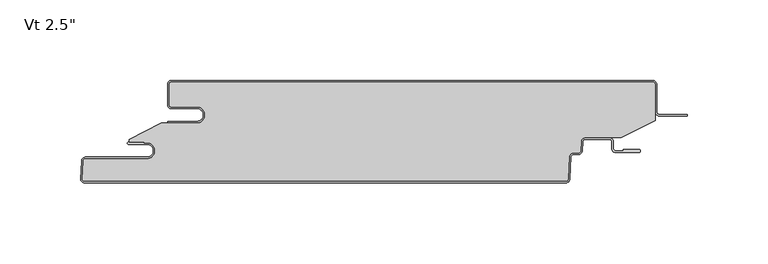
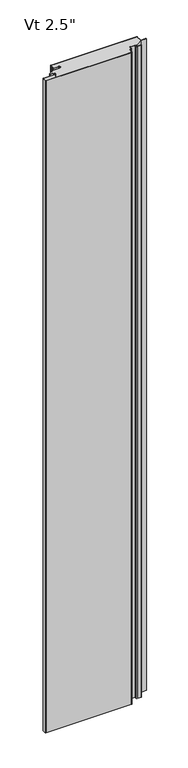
"""IFC4 building model written with IfcOpenShell, lengths in millimetres: plate geometry."""

from ifc_helpers import new_model, si_unit, point, frame, frame_2d, origin, origin_with_axes, place, context, project, spatial, polyline, circle_curve, ellipse_curve, trimmed, segment, composite_curve, outline, extrude, source, transform, mapped, element, save
from ifc_brep_helpers import plane_surface, cylinder_surface, revolved_surface, extruded_surface, advanced_brep


def plate_267bbc77(model_context):
    return source(origin(), model_context, "Body", "SolidModel", [
        extrude(outline(composite_curve([segment(polyline([(-133.35625, -16.4625), (-149.23125, -16.4625)]), True, "CONTINUOUS"), segment(trimmed(circle_curve(frame_2d((-149.23125, -15.08125)), 1.38125), [point((-149.23125, -16.4625))], [point((-150.6125, -15.08125))], False, "CARTESIAN"), True, "CONTINUOUS"), segment(polyline([(-150.6125, -15.08125), (-150.6125, -2.38125)]), True, "CONTINUOUS"), segment(trimmed(circle_curve(frame_2d((-149.23125, -2.38125)), 1.38125), [point((-150.6125, -2.38125))], [point((-149.23125, -1.0))], False, "CARTESIAN"), True, "CONTINUOUS"), segment(polyline([(-149.23125, -1.0), (149.21875, -1.0)]), True, "CONTINUOUS"), segment(trimmed(circle_curve(frame_2d((149.21875, -2.38125)), 1.38125), [point((149.21875, -1.0))], [point((150.6, -2.38125))], False, "CARTESIAN"), True, "CONTINUOUS"), segment(polyline([(150.6, -2.38125), (150.6, -24.9057308), (129.7830434, -35.5125), (107.3415783, -35.5125)]), True, "CONTINUOUS"), segment(trimmed(circle_curve(frame_2d((107.3415783, -38.1)), 2.5875), [point((107.3415783, -35.5125))], [point((104.7576244, -37.9645807))], True, "CARTESIAN"), True, "CONTINUOUS"), segment(polyline([(104.7576244, -37.9645807), (104.4555481, -43.728539)]), True, "CONTINUOUS"), segment(trimmed(circle_curve(frame_2d((103.0761911, -43.65625)), 1.38125), [point((104.4555481, -43.728539))], [point((103.0761911, -45.0375))], False, "CARTESIAN"), True, "CONTINUOUS"), segment(polyline([(103.0761911, -45.0375), (100.0323847, -45.0375)]), True, "CONTINUOUS"), segment(trimmed(circle_curve(frame_2d((100.0323847, -47.625)), 2.5875), [point((100.0323847, -45.0375))], [point((97.4484307, -47.4895807))], True, "CARTESIAN"), True, "CONTINUOUS"), segment(polyline([(97.4484307, -47.4895807), (96.7303677, -61.191039)]), True, "CONTINUOUS"), segment(trimmed(circle_curve(frame_2d((95.3510107, -61.11875)), 1.38125), [point((96.7303677, -61.191039))], [point((95.3510107, -62.5))], False, "CARTESIAN"), True, "CONTINUOUS"), segment(polyline([(95.3510107, -62.5), (-203.0924535, -62.5)]), True, "CONTINUOUS"), segment(trimmed(circle_curve(frame_2d((-203.0924535, -61.11875)), 1.38125), [point((-203.0924535, -62.5))], [point((-204.4718106, -61.046461))], False, "CARTESIAN"), True, "CONTINUOUS"), segment(polyline([(-204.4718106, -61.046461), (-203.8894291, -49.933961)]), True, "CONTINUOUS"), segment(trimmed(circle_curve(frame_2d((-202.5100721, -50.00625)), 1.38125), [point((-203.8894291, -49.933961))], [point((-202.5100721, -48.625))], False, "CARTESIAN"), True, "CONTINUOUS"), segment(polyline([(-202.5100721, -48.625), (-164.3267674, -48.625)]), True, "CONTINUOUS"), segment(trimmed(circle_curve(frame_2d((-164.3267674, -43.65625)), 4.96875), [point((-164.3267674, -48.625))], [point((-164.3267674, -38.6875))], True, "CARTESIAN"), True, "CONTINUOUS"), segment(polyline([(-164.3267674, -38.6875), (-165.9142674, -38.89375), (-165.9142674, -38.1), (-175.425, -38.1), (-175.425, -36.5326309), (-155.5385922, -26.4), (-133.35625, -26.4)]), True, "CONTINUOUS"), segment(trimmed(circle_curve(frame_2d((-133.35625, -21.43125)), 4.96875), [point((-133.35625, -26.4))], [point((-133.35625, -16.4625))], True, "CARTESIAN"), True, "CONTINUOUS")], self_intersect=False)), origin_with_axes(), (0.0, 0.0, 1.0), 2400.0),
        extrude(outline(composite_curve([segment(polyline([(-151.6125, -25.4), (-133.35625, -25.4)]), True, "CONTINUOUS"), segment(trimmed(circle_curve(frame_2d((-133.35625, -21.43125)), 3.96875), [point((-133.35625, -25.4))], [point((-133.35625, -17.4625))], True, "CARTESIAN"), True, "CONTINUOUS"), segment(polyline([(-133.35625, -17.4625), (-149.23125, -17.4625)]), True, "CONTINUOUS"), segment(trimmed(circle_curve(frame_2d((-149.23125, -15.08125)), 2.38125), [point((-149.23125, -17.4625))], [point((-151.6125, -15.08125))], False, "CARTESIAN"), True, "CONTINUOUS"), segment(polyline([(-151.6125, -15.08125), (-151.6125, -2.38125)]), True, "CONTINUOUS"), segment(trimmed(circle_curve(frame_2d((-149.23125, -2.38125)), 2.38125), [point((-151.6125, -2.38125))], [point((-149.23125, 0.0))], False, "CARTESIAN"), True, "CONTINUOUS"), segment(polyline([(-149.23125, 0.0), (149.21875, 0.0)]), True, "CONTINUOUS"), segment(trimmed(circle_curve(frame_2d((149.21875, -2.38125)), 2.38125), [point((149.21875, 0.0))], [point((151.6, -2.38125))], False, "CARTESIAN"), True, "CONTINUOUS"), segment(polyline([(151.6, -2.38125), (151.6, -19.446875)]), True, "CONTINUOUS"), segment(trimmed(circle_curve(frame_2d((153.1875, -19.446875)), 1.5875), [point((151.6, -19.446875))], [point((153.1875, -21.034375))], True, "CARTESIAN"), True, "CONTINUOUS"), segment(polyline([(153.1875, -21.034375), (170.65, -21.034375), (170.65, -22.034375), (153.1875, -22.034375)]), True, "CONTINUOUS"), segment(trimmed(circle_curve(frame_2d((153.1875, -19.446875)), 2.5875), [point((153.1875, -22.034375))], [point((150.6, -19.446875))], False, "CARTESIAN"), True, "CONTINUOUS"), segment(polyline([(150.6, -19.446875), (150.6, -2.38125)]), True, "CONTINUOUS"), segment(trimmed(circle_curve(frame_2d((149.21875, -2.38125)), 1.38125), [point((150.6, -2.38125))], [point((149.21875, -1.0))], True, "CARTESIAN"), True, "CONTINUOUS"), segment(polyline([(149.21875, -1.0), (-149.23125, -1.0)]), True, "CONTINUOUS"), segment(trimmed(circle_curve(frame_2d((-149.23125, -2.38125)), 1.38125), [point((-149.23125, -1.0))], [point((-150.6125, -2.38125))], True, "CARTESIAN"), True, "CONTINUOUS"), segment(polyline([(-150.6125, -2.38125), (-150.6125, -15.08125)]), True, "CONTINUOUS"), segment(trimmed(circle_curve(frame_2d((-149.23125, -15.08125)), 1.38125), [point((-150.6125, -15.08125))], [point((-149.23125, -16.4625))], True, "CARTESIAN"), True, "CONTINUOUS"), segment(polyline([(-149.23125, -16.4625), (-133.35625, -16.4625)]), True, "CONTINUOUS"), segment(trimmed(circle_curve(frame_2d((-133.35625, -21.43125)), 4.96875), [point((-133.35625, -16.4625))], [point((-133.35625, -26.4))], False, "CARTESIAN"), True, "CONTINUOUS"), segment(polyline([(-133.35625, -26.4), (-151.6125, -26.4), (-151.6125, -25.4)]), True, "CONTINUOUS")], self_intersect=False)), origin_with_axes(), (0.0, 0.0, 1.0), 2400.0),
        advanced_brep(
        [(-175.6377049, -38.1, 2400.0), (-175.6377049, -39.6875, 2400.0), (-164.3267674, -39.6875, 2400.0), (-164.3267674, -47.625, 2400.0), (-202.5100721, -47.625, 2400.0), (-204.8880586, -49.881625, 2400.0), (-205.4704401, -60.994125, 2400.0), (-203.0924535, -63.5, 2400.0), (95.3510107, -63.5, 2400.0), (97.7289973, -61.243375, 2400.0), (98.4470603, -47.5419167, 2400.0), (100.0323847, -46.0375, 2400.0), (103.0761911, -46.0375, 2400.0), (105.4541776, -43.780875, 2400.0), (105.7562539, -38.0169167, 2400.0), (107.3415783, -36.5125, 2400.0), (122.2169826, -36.5125, 2400.0), (123.8044826, -38.1, 2400.0), (123.8044826, -42.2671875, 2400.0), (126.1857326, -44.6484375, 2400.0), (140.6773532, -44.6484375, 2400.0), (140.6773532, -42.8546875, 2400.0), (130.9482326, -42.8546875, 2400.0), (130.9482326, -43.6484375, 2400.0), (126.1857326, -43.6484375, 2400.0), (124.8044826, -42.2671875, 2400.0), (124.8044826, -38.1, 2400.0), (122.2169826, -35.5125, 2400.0), (107.3415783, -35.5125, 2400.0), (104.7576244, -37.9645807, 2400.0), (104.4555481, -43.728539, 2400.0), (103.0761911, -45.0375, 2400.0), (100.0323847, -45.0375, 2400.0), (97.4484307, -47.4895807, 2400.0), (96.7303677, -61.191039, 2400.0), (95.3510107, -62.5, 2400.0), (-203.0924535, -62.5, 2400.0), (-204.4718106, -61.046461, 2400.0), (-203.8894291, -49.933961, 2400.0), (-202.5100721, -48.625, 2400.0), (-164.3267674, -48.625, 2400.0), (-164.3267674, -38.6875, 2400.0), (-165.9142674, -38.89375, 2400.0), (-165.9142674, -38.1, 2400.0), (-175.6377049, -38.1, 0.0), (-165.9142674, -38.1, 0.0), (-165.9142674, -38.89375, 0.0), (-164.3267674, -38.6875, 0.0), (-164.3267674, -48.625, 0.0), (-202.5100721, -48.625, 0.0), (-203.8894291, -49.933961, 0.0), (-204.4718106, -61.046461, 0.0), (-203.0924535, -62.5, 0.0), (95.3510107, -62.5, 0.0), (96.7303677, -61.191039, 0.0), (97.4484307, -47.4895807, 0.0), (100.0323847, -45.0375, 0.0), (103.0761911, -45.0375, 0.0), (104.4555481, -43.728539, 0.0), (104.7576244, -37.9645807, 0.0), (107.3415783, -35.5125, 0.0), (122.2169826, -35.5125, 0.0), (124.8044826, -38.1, 0.0), (124.8044826, -42.2671875, 0.0), (126.1857326, -43.6484375, 0.0), (130.9482326, -43.6484375, 0.0), (130.9482326, -42.8546875, 0.0), (140.6773532, -42.8546875, 0.0), (140.6773532, -44.6484375, 0.0), (126.1857326, -44.6484375, 0.0), (123.8044826, -42.2671875, 0.0), (123.8044826, -38.1, 0.0), (122.2169826, -36.5125, 0.0), (107.3415783, -36.5125, 0.0), (105.7562539, -38.0169167, 0.0), (105.4541776, -43.780875, 0.0), (103.0761911, -46.0375, 0.0), (100.0323847, -46.0375, 0.0), (98.4470603, -47.5419167, 0.0), (97.7289973, -61.243375, 0.0), (95.3510107, -63.5, 0.0), (-203.0924535, -63.5, 0.0), (-205.4704401, -60.994125, 0.0), (-204.8880586, -49.881625, 0.0), (-202.5100721, -47.625, 0.0), (-164.3267674, -47.625, 0.0), (-164.3267674, -39.6875, 0.0), (-175.6377049, -39.6875, 0.0)],
        [
            (0, 1, circle_curve(frame((-175.6377049, -38.89375, 2400.0), z_axis=(0.0, 0.0, 1.0), x_axis=(-1.0, 0.0, 0.0)), 0.79375)),
            (1, 2),
            (2, 3, circle_curve(frame((-164.3267674, -43.65625, 2400.0), z_axis=(0.0, 0.0, -1.0), x_axis=(-1.0, 0.0, 0.0)), 3.96875)),
            (3, 4),
            (4, 5, circle_curve(frame((-202.5100721, -50.00625, 2400.0), z_axis=(0.0, 0.0, 1.0), x_axis=(-1.0, 0.0, 0.0)), 2.38125)),
            (5, 6),
            (6, 7, circle_curve(frame((-203.0924535, -61.11875, 2400.0), z_axis=(0.0, 0.0, 1.0), x_axis=(-1.0, 0.0, 0.0)), 2.38125)),
            (7, 8),
            (8, 9, circle_curve(frame((95.3510107, -61.11875, 2400.0), z_axis=(0.0, 0.0, 1.0), x_axis=(-1.0, 0.0, 0.0)), 2.38125)),
            (9, 10),
            (10, 11, circle_curve(frame((100.0323847, -47.625, 2400.0), z_axis=(0.0, 0.0, -1.0), x_axis=(-1.0, 0.0, 0.0)), 1.5875)),
            (11, 12),
            (12, 13, circle_curve(frame((103.0761911, -43.65625, 2400.0), z_axis=(0.0, 0.0, 1.0), x_axis=(-1.0, 0.0, 0.0)), 2.38125)),
            (13, 14),
            (14, 15, circle_curve(frame((107.3415783, -38.1, 2400.0), z_axis=(0.0, 0.0, -1.0), x_axis=(-1.0, 0.0, 0.0)), 1.5875)),
            (15, 16),
            (16, 17, circle_curve(frame((122.2169826, -38.1, 2400.0), z_axis=(0.0, 0.0, -1.0), x_axis=(-1.0, 0.0, 0.0)), 1.5875)),
            (17, 18),
            (18, 19, circle_curve(frame((126.1857326, -42.2671875, 2400.0), z_axis=(0.0, 0.0, 1.0), x_axis=(-1.0, 0.0, 0.0)), 2.38125)),
            (19, 20),
            (20, 21, ellipse_curve(frame((140.6773532, -43.7515625, 2400.0), z_axis=(0.0, 0.0, 1.0), x_axis=(0.0, 1.0, 0.0)), 0.896875, 0.7852275)),
            (21, 22),
            (22, 23),
            (23, 24),
            (24, 25, circle_curve(frame((126.1857326, -42.2671875, 2400.0), z_axis=(0.0, 0.0, -1.0), x_axis=(-1.0, 0.0, 0.0)), 1.38125)),
            (25, 26),
            (26, 27, circle_curve(frame((122.2169826, -38.1, 2400.0), z_axis=(0.0, 0.0, 1.0), x_axis=(-1.0, 0.0, 0.0)), 2.5875)),
            (27, 28),
            (28, 29, circle_curve(frame((107.3415783, -38.1, 2400.0), z_axis=(0.0, 0.0, 1.0), x_axis=(-1.0, 0.0, 0.0)), 2.5875)),
            (29, 30),
            (30, 31, circle_curve(frame((103.0761911, -43.65625, 2400.0), z_axis=(0.0, 0.0, -1.0), x_axis=(-1.0, 0.0, 0.0)), 1.38125)),
            (31, 32),
            (32, 33, circle_curve(frame((100.0323847, -47.625, 2400.0), z_axis=(0.0, 0.0, 1.0), x_axis=(-1.0, 0.0, 0.0)), 2.5875)),
            (33, 34),
            (34, 35, circle_curve(frame((95.3510107, -61.11875, 2400.0), z_axis=(0.0, 0.0, -1.0), x_axis=(-1.0, 0.0, 0.0)), 1.38125)),
            (35, 36),
            (36, 37, circle_curve(frame((-203.0924535, -61.11875, 2400.0), z_axis=(0.0, 0.0, -1.0), x_axis=(-1.0, 0.0, 0.0)), 1.38125)),
            (37, 38),
            (38, 39, circle_curve(frame((-202.5100721, -50.00625, 2400.0), z_axis=(0.0, 0.0, -1.0), x_axis=(-1.0, 0.0, 0.0)), 1.38125)),
            (39, 40),
            (40, 41, circle_curve(frame((-164.3267674, -43.65625, 2400.0), z_axis=(0.0, 0.0, 1.0), x_axis=(-1.0, 0.0, 0.0)), 4.96875)),
            (41, 42),
            (42, 43),
            (43, 0),
            (44, 45),
            (45, 46),
            (46, 47),
            (47, 48, circle_curve(frame((-164.3267674, -43.65625, 0.0), z_axis=(0.0, 0.0, -1.0), x_axis=(-1.0, 0.0, 0.0)), 4.96875)),
            (48, 49),
            (49, 50, circle_curve(frame((-202.5100721, -50.00625, 0.0), z_axis=(0.0, 0.0, 1.0), x_axis=(-1.0, 0.0, 0.0)), 1.38125)),
            (50, 51),
            (51, 52, circle_curve(frame((-203.0924535, -61.11875, 0.0), z_axis=(0.0, 0.0, 1.0), x_axis=(-1.0, 0.0, 0.0)), 1.38125)),
            (52, 53),
            (53, 54, circle_curve(frame((95.3510107, -61.11875, 0.0), z_axis=(0.0, 0.0, 1.0), x_axis=(-1.0, 0.0, 0.0)), 1.38125)),
            (54, 55),
            (55, 56, circle_curve(frame((100.0323847, -47.625, 0.0), z_axis=(0.0, 0.0, -1.0), x_axis=(-1.0, 0.0, 0.0)), 2.5875)),
            (56, 57),
            (57, 58, circle_curve(frame((103.0761911, -43.65625, 0.0), z_axis=(0.0, 0.0, 1.0), x_axis=(-1.0, 0.0, 0.0)), 1.38125)),
            (58, 59),
            (59, 60, circle_curve(frame((107.3415783, -38.1, 0.0), z_axis=(0.0, 0.0, -1.0), x_axis=(-1.0, 0.0, 0.0)), 2.5875)),
            (60, 61),
            (61, 62, circle_curve(frame((122.2169826, -38.1, 0.0), z_axis=(0.0, 0.0, -1.0), x_axis=(-1.0, 0.0, 0.0)), 2.5875)),
            (62, 63),
            (63, 64, circle_curve(frame((126.1857326, -42.2671875, 0.0), z_axis=(0.0, 0.0, 1.0), x_axis=(-1.0, 0.0, 0.0)), 1.38125)),
            (64, 65),
            (65, 66),
            (66, 67),
            (67, 68, ellipse_curve(frame((140.6773532, -43.7515625, 0.0), z_axis=(0.0, 0.0, -1.0), x_axis=(0.0, 1.0, 0.0)), 0.896875, 0.7852275)),
            (68, 69),
            (69, 70, circle_curve(frame((126.1857326, -42.2671875, 0.0), z_axis=(0.0, 0.0, -1.0), x_axis=(-1.0, 0.0, 0.0)), 2.38125)),
            (70, 71),
            (71, 72, circle_curve(frame((122.2169826, -38.1, 0.0), z_axis=(0.0, 0.0, 1.0), x_axis=(-1.0, 0.0, 0.0)), 1.5875)),
            (72, 73),
            (73, 74, circle_curve(frame((107.3415783, -38.1, 0.0), z_axis=(0.0, 0.0, 1.0), x_axis=(-1.0, 0.0, 0.0)), 1.5875)),
            (74, 75),
            (75, 76, circle_curve(frame((103.0761911, -43.65625, 0.0), z_axis=(0.0, 0.0, -1.0), x_axis=(-1.0, 0.0, 0.0)), 2.38125)),
            (76, 77),
            (77, 78, circle_curve(frame((100.0323847, -47.625, 0.0), z_axis=(0.0, 0.0, 1.0), x_axis=(-1.0, 0.0, 0.0)), 1.5875)),
            (78, 79),
            (79, 80, circle_curve(frame((95.3510107, -61.11875, 0.0), z_axis=(0.0, 0.0, -1.0), x_axis=(-1.0, 0.0, 0.0)), 2.38125)),
            (80, 81),
            (81, 82, circle_curve(frame((-203.0924535, -61.11875, 0.0), z_axis=(0.0, 0.0, -1.0), x_axis=(-1.0, 0.0, 0.0)), 2.38125)),
            (82, 83),
            (83, 84, circle_curve(frame((-202.5100721, -50.00625, 0.0), z_axis=(0.0, 0.0, -1.0), x_axis=(-1.0, 0.0, 0.0)), 2.38125)),
            (84, 85),
            (85, 86, circle_curve(frame((-164.3267674, -43.65625, 0.0), z_axis=(0.0, 0.0, 1.0), x_axis=(-1.0, 0.0, 0.0)), 3.96875)),
            (86, 87),
            (87, 44, circle_curve(frame((-175.6377049, -38.89375, 0.0), z_axis=(0.0, 0.0, -1.0), x_axis=(-1.0, 0.0, 0.0)), 0.79375)),
            (43, 45),
            (44, 0),
            (87, 1),
            (86, 2),
            (85, 3),
            (84, 4),
            (83, 5),
            (82, 6),
            (81, 7),
            (80, 8),
            (79, 9),
            (78, 10),
            (77, 11),
            (76, 12),
            (75, 13),
            (74, 14),
            (73, 15),
            (38, 50),
            (49, 39),
            (37, 51),
            (36, 52),
            (35, 53),
            (34, 54),
            (33, 55),
            (32, 56),
            (31, 57),
            (30, 58),
            (29, 59),
            (28, 60),
            (23, 65),
            (64, 24),
            (63, 25),
            (62, 26),
            (72, 16),
            (71, 17),
            (70, 18),
            (69, 19),
            (68, 20),
            (27, 61),
            (48, 40),
            (47, 41),
            (42, 46),
            (22, 66),
            (21, 67),
        ],
        [
            plane_surface(frame((-0.00625, -63.5, 2400.0), z_axis=(0.0, 0.0, 1.0), x_axis=(0.0, -1.0, 0.0))),
            plane_surface(frame((-0.00625, -63.5, 0.0), z_axis=(0.0, 0.0, -1.0), x_axis=(0.0, -1.0, 0.0))),
            plane_surface(frame((-175.6377049, -38.1, 2400.0), z_axis=(0.0, 1.0, 0.0), x_axis=(0.0, 0.0, -1.0))),
            cylinder_surface(frame((-175.6377049, -38.89375, 2400.0), z_axis=(0.0, 0.0, 1.0), x_axis=(-1.0, 0.0, 0.0)), 0.79375),
            plane_surface(frame((-164.3267674, -39.6875, 2400.0), z_axis=(0.0, -1.0, 0.0), x_axis=(0.0, 0.0, -1.0))),
            revolved_surface(polyline([(-168.2955174, -43.65625, 0.0), (-168.2955174, -43.65625, 2400.0)]), (-164.3267674, -43.65625, 2400.0), (0.0, 0.0, -1.0)),
            plane_surface(frame((-202.5100721, -47.625, 2400.0), z_axis=(0.0, 1.0, 0.0), x_axis=(0.0, 0.0, -1.0))),
            cylinder_surface(frame((-202.5100721, -50.00625, 2400.0), z_axis=(0.0, 0.0, 1.0), x_axis=(-1.0, 0.0, 0.0)), 2.38125),
            plane_surface(frame((-205.4704401, -60.994125, 2400.0), z_axis=(-0.9986295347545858, 0.052335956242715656, 0.0), x_axis=(0.0, 0.0, -1.0))),
            cylinder_surface(frame((-203.0924535, -61.11875, 2400.0), z_axis=(0.0, 0.0, 1.0), x_axis=(-1.0, 0.0, 0.0)), 2.38125),
            plane_surface(frame((95.3510107, -63.5, 2400.0), z_axis=(0.0, -1.0, 0.0), x_axis=(0.0, 0.0, -1.0))),
            cylinder_surface(frame((95.3510107, -61.11875, 2400.0), z_axis=(0.0, 0.0, 1.0), x_axis=(-1.0, 0.0, 0.0)), 2.38125),
            plane_surface(frame((98.4470603, -47.5419167, 2400.0), z_axis=(0.9986295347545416, -0.05233595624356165, 0.0), x_axis=(0.0, 0.0, -1.0))),
            revolved_surface(polyline([(98.44488469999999, -47.625, 0.0), (98.44488469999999, -47.625, 2400.0)]), (100.0323847, -47.625, 2400.0), (0.0, 0.0, -1.0)),
            plane_surface(frame((103.0761911, -46.0375, 2400.0), z_axis=(0.0, -1.0, 0.0), x_axis=(0.0, 0.0, -1.0))),
            cylinder_surface(frame((103.0761911, -43.65625, 2400.0), z_axis=(0.0, 0.0, 1.0), x_axis=(-1.0, 0.0, 0.0)), 2.38125),
            plane_surface(frame((105.7562539, -38.0169167, 2400.0), z_axis=(0.9986295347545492, -0.052335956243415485, 0.0), x_axis=(0.0, 0.0, -1.0))),
            revolved_surface(polyline([(105.75407829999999, -38.1, 0.0), (105.75407829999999, -38.1, 2400.0)]), (107.3415783, -38.1, 2400.0), (0.0, 0.0, -1.0)),
            revolved_surface(polyline([(-203.8913221, -50.00625, 0.0), (-203.8913221, -50.00625, 2400.0)]), (-202.5100721, -50.00625, 2400.0), (0.0, 0.0, -1.0)),
            plane_surface(frame((-203.8894291, -49.933961, 2400.0), z_axis=(0.9986295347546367, -0.05233595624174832, 0.0), x_axis=(0.0, 0.0, -1.0))),
            revolved_surface(polyline([(-204.4737035, -61.11875, 0.0), (-204.4737035, -61.11875, 2400.0)]), (-203.0924535, -61.11875, 2400.0), (0.0, 0.0, -1.0)),
            plane_surface(frame((-203.0924535, -62.5, 2400.0), z_axis=(0.0, 1.0, 0.0), x_axis=(0.0, 0.0, -1.0))),
            revolved_surface(polyline([(93.96976070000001, -61.11875, 0.0), (93.96976070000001, -61.11875, 2400.0)]), (95.3510107, -61.11875, 2400.0), (0.0, 0.0, -1.0)),
            plane_surface(frame((96.7303677, -61.191039, 2400.0), z_axis=(-0.9986295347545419, 0.05233595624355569, 0.0), x_axis=(0.0, 0.0, -1.0))),
            cylinder_surface(frame((100.0323847, -47.625, 2400.0), z_axis=(0.0, 0.0, 1.0), x_axis=(-1.0, 0.0, 0.0)), 2.5875),
            plane_surface(frame((100.0323847, -45.0375, 2400.0), z_axis=(0.0, 1.0, 0.0), x_axis=(0.0, 0.0, -1.0))),
            revolved_surface(polyline([(101.69494110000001, -43.65625, 0.0), (101.69494110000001, -43.65625, 2400.0)]), (103.0761911, -43.65625, 2400.0), (0.0, 0.0, -1.0)),
            plane_surface(frame((104.4555481, -43.728539, 2400.0), z_axis=(-0.9986295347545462, 0.05233595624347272, 0.0), x_axis=(0.0, 0.0, -1.0))),
            cylinder_surface(frame((107.3415783, -38.1, 2400.0), z_axis=(0.0, 0.0, 1.0), x_axis=(-1.0, 0.0, 0.0)), 2.5875),
            plane_surface(frame((126.1857326, -43.6484375, 2400.0), z_axis=(0.0, 1.0, 0.0), x_axis=(0.0, 0.0, -1.0))),
            revolved_surface(polyline([(124.8044826, -42.2671875, 0.0), (124.8044826, -42.2671875, 2400.0)]), (126.1857326, -42.2671875, 2400.0), (0.0, 0.0, -1.0)),
            plane_surface(frame((124.8044826, -38.1, 2400.0), z_axis=(1.0, 0.0, 0.0), x_axis=(0.0, 0.0, -1.0))),
            plane_surface(frame((122.2169826, -36.5125, 2400.0), z_axis=(0.0, -1.0, 0.0), x_axis=(0.0, 0.0, -1.0))),
            revolved_surface(polyline([(120.62948259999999, -38.1, 0.0), (120.62948259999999, -38.1, 2400.0)]), (122.2169826, -38.1, 2400.0), (0.0, 0.0, -1.0)),
            plane_surface(frame((123.8044826, -42.2671875, 2400.0), z_axis=(-1.0, 0.0, 0.0), x_axis=(0.0, 0.0, -1.0))),
            cylinder_surface(frame((126.1857326, -42.2671875, 2400.0), z_axis=(0.0, 0.0, 1.0), x_axis=(-1.0, 0.0, 0.0)), 2.38125),
            plane_surface(frame((140.6773532, -44.6484375, 2400.0), z_axis=(0.0, -1.0, 0.0), x_axis=(0.0, 0.0, -1.0))),
            plane_surface(frame((107.3415783, -35.5125, 2400.0), z_axis=(0.0, 1.0, 0.0), x_axis=(0.0, 0.0, -1.0))),
            cylinder_surface(frame((122.2169826, -38.1, 2400.0), z_axis=(0.0, 0.0, 1.0), x_axis=(-1.0, 0.0, 0.0)), 2.5875),
            plane_surface(frame((-164.3267674, -48.625, 2400.0), z_axis=(0.0, -1.0, 0.0), x_axis=(0.0, 0.0, -1.0))),
            cylinder_surface(frame((-164.3267674, -43.65625, 2400.0), z_axis=(0.0, 0.0, 1.0), x_axis=(-1.0, 0.0, 0.0)), 4.96875),
            plane_surface(frame((-165.9142674, -38.1, 2400.0), z_axis=(1.0, 0.0, 0.0), x_axis=(0.0, 0.0, -1.0))),
            plane_surface(frame((-165.9142674, -38.89375, 2400.0), z_axis=(-0.12883844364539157, 0.9916655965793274, 0.0), x_axis=(0.0, 0.0, -1.0))),
            plane_surface(frame((130.9482326, -43.6484375, 2400.0), z_axis=(-1.0, 0.0, 0.0), x_axis=(0.0, 0.0, -1.0))),
            plane_surface(frame((130.9482326, -42.8546875, 2400.0), z_axis=(0.0, 1.0, 0.0), x_axis=(0.0, 0.0, -1.0))),
            extruded_surface(trimmed(ellipse_curve(frame((140.6773532, -43.7515625, 2400.0), z_axis=(0.0, 0.0, -1.0), x_axis=(0.0, 1.0, 0.0)), 0.896875, 0.7852275), [point((140.6773532, -42.8546875, 2400.0))], [point((140.6773532, -44.6484375, 2400.0))], True, "CARTESIAN"), (0.0, 0.0, -2400.0), 2400.0),
        ],
        [
            (0, [[1, 2, 3, 4, 5, 6, 7, 8, 9, 10, 11, 12, 13, 14, 15, 16, 17, 18, 19, 20, 21, 22, 23, 24, 25, 26, 27, 28, 29, 30, 31, 32, 33, 34, 35, 36, 37, 38, 39, 40, 41, 42, 43, 44]]),
            (1, [[45, 46, 47, 48, 49, 50, 51, 52, 53, 54, 55, 56, 57, 58, 59, 60, 61, 62, 63, 64, 65, 66, 67, 68, 69, 70, 71, 72, 73, 74, 75, 76, 77, 78, 79, 80, 81, 82, 83, 84, 85, 86, 87, 88]]),
            (2, [[89, -45, 90, -44]]),
            (3, [[-90, -88, 91, -1]]),
            (4, [[-91, -87, 92, -2]]),
            (5, [[-92, -86, 93, -3]]),
            (6, [[-93, -85, 94, -4]]),
            (7, [[-94, -84, 95, -5]]),
            (8, [[-95, -83, 96, -6]]),
            (9, [[-96, -82, 97, -7]]),
            (10, [[-97, -81, 98, -8]]),
            (11, [[-98, -80, 99, -9]]),
            (12, [[-99, -79, 100, -10]]),
            (13, [[-100, -78, 101, -11]]),
            (14, [[-101, -77, 102, -12]]),
            (15, [[-102, -76, 103, -13]]),
            (16, [[-103, -75, 104, -14]]),
            (17, [[-104, -74, 105, -15]]),
            (18, [[106, -50, 107, -39]]),
            (19, [[108, -51, -106, -38]]),
            (20, [[109, -52, -108, -37]]),
            (21, [[110, -53, -109, -36]]),
            (22, [[111, -54, -110, -35]]),
            (23, [[112, -55, -111, -34]]),
            (24, [[113, -56, -112, -33]]),
            (25, [[114, -57, -113, -32]]),
            (26, [[115, -58, -114, -31]]),
            (27, [[116, -59, -115, -30]]),
            (28, [[117, -60, -116, -29]]),
            (29, [[118, -65, 119, -24]]),
            (30, [[-119, -64, 120, -25]]),
            (31, [[-120, -63, 121, -26]]),
            (32, [[-105, -73, 122, -16]]),
            (33, [[-122, -72, 123, -17]]),
            (34, [[-123, -71, 124, -18]]),
            (35, [[-124, -70, 125, -19]]),
            (36, [[-125, -69, 126, -20]]),
            (37, [[127, -61, -117, -28]]),
            (38, [[-121, -62, -127, -27]]),
            (39, [[-107, -49, 128, -40]]),
            (40, [[-128, -48, 129, -41]]),
            (41, [[130, -46, -89, -43]]),
            (42, [[-129, -47, -130, -42]]),
            (43, [[131, -66, -118, -23]]),
            (44, [[132, -67, -131, -22]]),
            (45, [[-126, -68, -132, -21]]),
        ],
    ),
    ])


if __name__ == "__main__":
    model = new_model("IFC4")
    model_context = context("Model", 3, world=origin())
    ifc_project = project(units=[si_unit("LENGTHUNIT", "METRE", prefix="MILLI")], contexts=[model_context])
    site = spatial("IfcSite", under=ifc_project)
    building = spatial("IfcBuilding", under=site)
    placement = place(None, origin())
    plate_shape = plate_267bbc77(model_context)
    element("IfcPlate", 1, ObjectType="KIP-12-DWTR-R19-CP-Vt-F : Vt 2.5\"", at=placement, inside=building, context=model_context, shape_type="MappedRepresentation", body=[
        mapped(plate_shape, transform((0.0, 0.0, 0.0), x_axis=(1.0, 0.0, 0.0), y_axis=(0.0, 1.0, 0.0), z_axis=(0.0, 0.0, 1.0))),
    ])
    save(model, "model.ifc")
